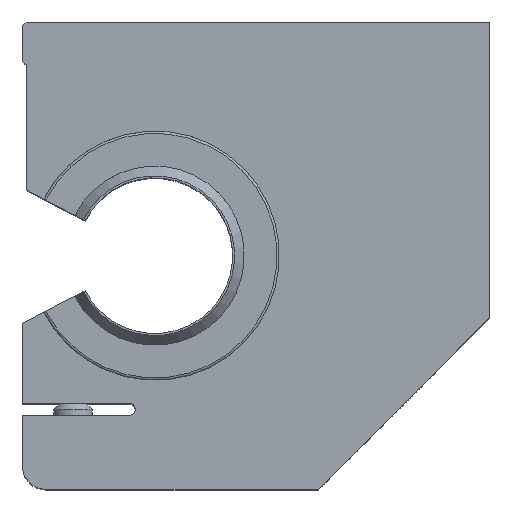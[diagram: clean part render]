
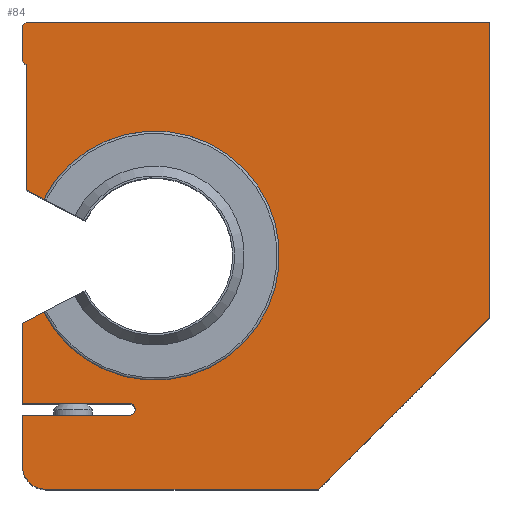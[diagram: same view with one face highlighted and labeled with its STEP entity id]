
A CAD part, top view. The second image highlights one B-rep face of the part: STEP entity #84.
In plain terms, the highlighted planar face has unit normal (0, 0, 1).
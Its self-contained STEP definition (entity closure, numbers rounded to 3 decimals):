
#84=ADVANCED_FACE('',(#182),#183,.F.);
#182=FACE_OUTER_BOUND('',#397,.T.);
#183=PLANE('',#398);
#397=EDGE_LOOP('',(#656,#657,#658,#659,#660,#661,#662,#663,#664,#665,#666,#667,#668,#669,#670,#671,#672));
#398=AXIS2_PLACEMENT_3D('',#673,#674,#675);
#656=ORIENTED_EDGE('',*,*,#1349,.F.);
#657=ORIENTED_EDGE('',*,*,#1350,.T.);
#658=ORIENTED_EDGE('',*,*,#1351,.F.);
#659=ORIENTED_EDGE('',*,*,#1352,.F.);
#660=ORIENTED_EDGE('',*,*,#1353,.F.);
#661=ORIENTED_EDGE('',*,*,#1354,.F.);
#662=ORIENTED_EDGE('',*,*,#1355,.F.);
#663=ORIENTED_EDGE('',*,*,#1356,.F.);
#664=ORIENTED_EDGE('',*,*,#1357,.F.);
#665=ORIENTED_EDGE('',*,*,#1343,.F.);
#666=ORIENTED_EDGE('',*,*,#1358,.F.);
#667=ORIENTED_EDGE('',*,*,#1359,.F.);
#668=ORIENTED_EDGE('',*,*,#1360,.F.);
#669=ORIENTED_EDGE('',*,*,#1361,.F.);
#670=ORIENTED_EDGE('',*,*,#1362,.F.);
#671=ORIENTED_EDGE('',*,*,#1363,.F.);
#672=ORIENTED_EDGE('',*,*,#1364,.F.);
#673=CARTESIAN_POINT('',(-14.0,-27.0,27.0));
#674=DIRECTION('',(0.0,0.0,-1.0));
#675=DIRECTION('',(-1.0,0.0,0.0));
#1343=EDGE_CURVE('',#1604,#1606,#1607,.T.);
#1349=EDGE_CURVE('',#1617,#1618,#1619,.T.);
#1350=EDGE_CURVE('',#1617,#1620,#1621,.F.);
#1351=EDGE_CURVE('',#1622,#1620,#1623,.T.);
#1352=EDGE_CURVE('',#1624,#1622,#1625,.T.);
#1353=EDGE_CURVE('',#1626,#1624,#1627,.T.);
#1354=EDGE_CURVE('',#1628,#1626,#1629,.T.);
#1355=EDGE_CURVE('',#1630,#1628,#1631,.T.);
#1356=EDGE_CURVE('',#1632,#1630,#1633,.T.);
#1357=EDGE_CURVE('',#1606,#1632,#1634,.T.);
#1358=EDGE_CURVE('',#1635,#1604,#1636,.T.);
#1359=EDGE_CURVE('',#1637,#1635,#1638,.T.);
#1360=EDGE_CURVE('',#1639,#1637,#1640,.T.);
#1361=EDGE_CURVE('',#1641,#1639,#1642,.T.);
#1362=EDGE_CURVE('',#1643,#1641,#1644,.T.);
#1363=EDGE_CURVE('',#1645,#1643,#1646,.T.);
#1364=EDGE_CURVE('',#1618,#1645,#1647,.T.);
#1604=VERTEX_POINT('',#2007);
#1606=VERTEX_POINT('',#2010);
#1607=CIRCLE('',#2011,16.0);
#1617=VERTEX_POINT('',#2024);
#1618=VERTEX_POINT('',#2025);
#1619=LINE('',#2026,#2027);
#1620=VERTEX_POINT('',#2028);
#1621=LINE('',#2029,#2030);
#1622=VERTEX_POINT('',#2031);
#1623=LINE('',#2032,#2033);
#1624=VERTEX_POINT('',#2034);
#1625=LINE('',#2035,#2036);
#1626=VERTEX_POINT('',#2037);
#1627=LINE('',#2038,#2039);
#1628=VERTEX_POINT('',#2040);
#1629=LINE('',#2041,#2042);
#1630=VERTEX_POINT('',#2043);
#1631=LINE('',#2044,#2045);
#1632=VERTEX_POINT('',#2046);
#1633=LINE('',#2047,#2048);
#1634=LINE('',#2049,#2050);
#1635=VERTEX_POINT('',#2051);
#1636=LINE('',#2052,#2053);
#1637=VERTEX_POINT('',#2054);
#1638=LINE('',#2055,#2056);
#1639=VERTEX_POINT('',#2057);
#1640=LINE('',#2058,#2059);
#1641=VERTEX_POINT('',#2060);
#1642=CIRCLE('',#2061,0.75);
#1643=VERTEX_POINT('',#2062);
#1644=LINE('',#2063,#2064);
#1645=VERTEX_POINT('',#2065);
#1646=LINE('',#2066,#2067);
#1647=CIRCLE('',#2068,3.0);
#2007=CARTESIAN_POINT('',(-14.253,-7.271,27.0));
#2010=CARTESIAN_POINT('',(-14.253,7.271,27.0));
#2011=AXIS2_PLACEMENT_3D('',#2580,#2581,#2582);
#2024=CARTESIAN_POINT('',(21.0,-30.0,27.0));
#2025=CARTESIAN_POINT('',(-14.0,-30.0,27.0));
#2026=CARTESIAN_POINT('',(43.0,-30.0,27.0));
#2027=VECTOR('',#2592,1.0);
#2028=CARTESIAN_POINT('',(43.0,-8.0,27.0));
#2029=CARTESIAN_POINT('',(43.0,-8.0,27.0));
#2030=VECTOR('',#2593,1.0);
#2031=CARTESIAN_POINT('',(43.0,30.0,27.0));
#2032=CARTESIAN_POINT('',(43.0,30.0,27.0));
#2033=VECTOR('',#2594,1.0);
#2034=CARTESIAN_POINT('',(-16.5,30.0,27.0));
#2035=CARTESIAN_POINT('',(-16.5,30.0,27.0));
#2036=VECTOR('',#2595,1.0);
#2037=CARTESIAN_POINT('',(-17.0,29.5,27.0));
#2038=CARTESIAN_POINT('',(-17.0,29.5,27.0));
#2039=VECTOR('',#2596,1.0);
#2040=CARTESIAN_POINT('',(-17.0,25.0,27.0));
#2041=CARTESIAN_POINT('',(-17.0,25.0,27.0));
#2042=VECTOR('',#2597,1.0);
#2043=CARTESIAN_POINT('',(-16.5,24.5,27.0));
#2044=CARTESIAN_POINT('',(-16.5,24.5,27.0));
#2045=VECTOR('',#2598,1.0);
#2046=CARTESIAN_POINT('',(-16.5,8.441,27.0));
#2047=CARTESIAN_POINT('',(-16.5,8.441,27.0));
#2048=VECTOR('',#2599,1.0);
#2049=CARTESIAN_POINT('',(-14.253,7.271,27.0));
#2050=VECTOR('',#2600,1.0);
#2051=CARTESIAN_POINT('',(-17.0,-8.701,27.0));
#2052=CARTESIAN_POINT('',(-17.0,-8.701,27.0));
#2053=VECTOR('',#2601,1.0);
#2054=CARTESIAN_POINT('',(-17.0,-19.0,27.0));
#2055=CARTESIAN_POINT('',(-17.0,-19.0,27.0));
#2056=VECTOR('',#2602,1.0);
#2057=CARTESIAN_POINT('',(-3.25,-19.0,27.0));
#2058=CARTESIAN_POINT('',(-3.25,-19.0,27.0));
#2059=VECTOR('',#2603,1.0);
#2060=CARTESIAN_POINT('',(-3.25,-20.5,27.0));
#2061=AXIS2_PLACEMENT_3D('',#2604,#2605,#2606);
#2062=CARTESIAN_POINT('',(-17.0,-20.5,27.0));
#2063=CARTESIAN_POINT('',(-17.0,-20.5,27.0));
#2064=VECTOR('',#2607,1.0);
#2065=CARTESIAN_POINT('',(-17.0,-27.0,27.0));
#2066=CARTESIAN_POINT('',(-17.0,-27.0,27.0));
#2067=VECTOR('',#2608,1.0);
#2068=AXIS2_PLACEMENT_3D('',#2609,#2610,#2611);
#2580=CARTESIAN_POINT('',(0.0,0.0,27.0));
#2581=DIRECTION('',(0.0,0.0,1.0));
#2582=DIRECTION('',(1.0,0.0,0.0));
#2592=DIRECTION('',(-1.0,0.0,0.0));
#2593=DIRECTION('',(-0.707,-0.707,0.0));
#2594=DIRECTION('',(0.0,-1.0,0.0));
#2595=DIRECTION('',(1.0,0.0,0.0));
#2596=DIRECTION('',(0.707,0.707,0.0));
#2597=DIRECTION('',(0.0,1.0,0.0));
#2598=DIRECTION('',(-0.707,0.707,0.0));
#2599=DIRECTION('',(0.0,1.0,0.0));
#2600=DIRECTION('',(-0.887,0.462,0.0));
#2601=DIRECTION('',(0.887,0.462,0.0));
#2602=DIRECTION('',(0.0,1.0,0.0));
#2603=DIRECTION('',(-1.0,0.0,0.0));
#2604=CARTESIAN_POINT('',(-3.25,-19.75,27.0));
#2605=DIRECTION('',(0.0,0.0,1.0));
#2606=DIRECTION('',(1.0,0.0,0.0));
#2607=DIRECTION('',(1.0,0.0,0.0));
#2608=DIRECTION('',(0.0,1.0,0.0));
#2609=CARTESIAN_POINT('',(-14.0,-27.0,27.0));
#2610=DIRECTION('',(0.0,0.0,-1.0));
#2611=DIRECTION('',(1.0,0.0,0.0));
